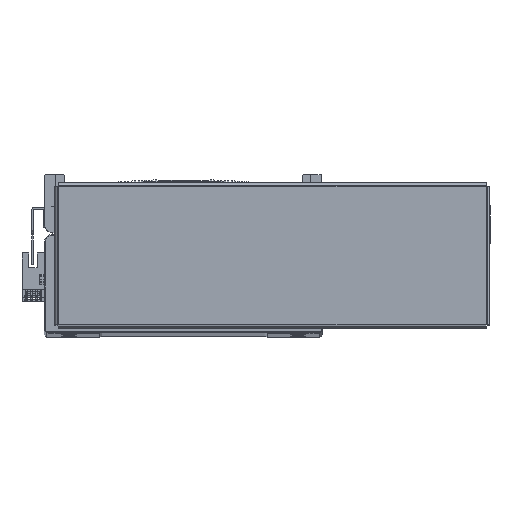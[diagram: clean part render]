
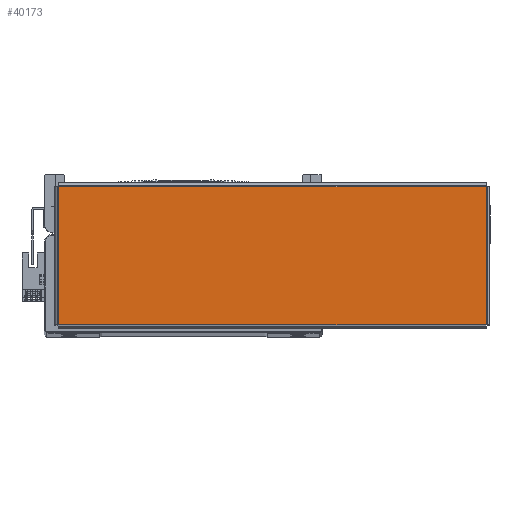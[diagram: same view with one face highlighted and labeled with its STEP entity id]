
A CAD part, top view. The second image highlights one B-rep face of the part: STEP entity #40173.
In plain terms, the highlighted planar face has unit normal (0, 0, 1) as drawn and (0, -1, 0) by its records, which use the part's own axes.
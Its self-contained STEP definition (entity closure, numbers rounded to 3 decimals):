
#6037 = ORIENTED_EDGE ( 'NONE', *, *, #69339, .T. ) ;
#6066 = ORIENTED_EDGE ( 'NONE', *, *, #69343, .T. ) ;
#6085 = ORIENTED_EDGE ( 'NONE', *, *, #69327, .T. ) ;
#6096 = ORIENTED_EDGE ( 'NONE', *, *, #69305, .T. ) ;
#26376 = CARTESIAN_POINT ( 'NONE',  ( 0., -1.5, 0. ) ) ;
#26387 = DIRECTION ( 'NONE',  ( 0., 1., 0. ) ) ;
#26390 = DIRECTION ( 'NONE',  ( 0., 0., 1. ) ) ;
#26394 = PLANE ( 'NONE',  #64000 ) ;
#27065 = CARTESIAN_POINT ( 'NONE',  ( -130.863, -1.5, -42.263 ) ) ;
#27087 = CARTESIAN_POINT ( 'NONE',  ( -130.863, -1.5, 42.263 ) ) ;
#27167 = CARTESIAN_POINT ( 'NONE',  ( 130.863, -1.5, -42.263 ) ) ;
#27168 = CARTESIAN_POINT ( 'NONE',  ( 130.863, -1.5, 42.263 ) ) ;
#38449 = DIRECTION ( 'NONE',  ( 1., 0., 0. ) ) ;
#38459 = CARTESIAN_POINT ( 'NONE',  ( -130.893, -1.5, -42.263 ) ) ;
#38479 = CARTESIAN_POINT ( 'NONE',  ( 130.893, -1.5, 42.263 ) ) ;
#38488 = CARTESIAN_POINT ( 'NONE',  ( 130.863, -1.5, -42.293 ) ) ;
#38505 = DIRECTION ( 'NONE',  ( 0., 0., 1. ) ) ;
#38521 = DIRECTION ( 'NONE',  ( 0., 0., -1. ) ) ;
#38528 = DIRECTION ( 'NONE',  ( -1., 0., 0. ) ) ;
#38550 = CARTESIAN_POINT ( 'NONE',  ( -130.863, -1.5, 42.293 ) ) ;
#40173 = ADVANCED_FACE ( 'NONE', ( #48474 ), #26394, .F. ) ;
#45609 = VERTEX_POINT ( 'NONE', #27065 ) ;
#45687 = VERTEX_POINT ( 'NONE', #27087 ) ;
#45791 = VERTEX_POINT ( 'NONE', #27167 ) ;
#45793 = VERTEX_POINT ( 'NONE', #27168 ) ;
#48474 = FACE_OUTER_BOUND ( 'NONE', #62926, .T. ) ;
#49000 = LINE ( 'NONE', #38488, #49016 ) ;
#49004 = VECTOR ( 'NONE', #38528, 1000. ) ;
#49016 = VECTOR ( 'NONE', #38505, 1000. ) ;
#49046 = VECTOR ( 'NONE', #38449, 1000. ) ;
#49062 = LINE ( 'NONE', #38479, #49004 ) ;
#49116 = LINE ( 'NONE', #38459, #49046 ) ;
#49138 = LINE ( 'NONE', #38550, #49142 ) ;
#49142 = VECTOR ( 'NONE', #38521, 1000. ) ;
#62926 = EDGE_LOOP ( 'NONE', ( #6085, #6037, #6066, #6096 ) ) ;
#64000 = AXIS2_PLACEMENT_3D ( 'NONE', #26376, #26387, #26390 ) ;
#69305 = EDGE_CURVE ( 'NONE', #45609, #45791, #49116, .T. ) ;
#69327 = EDGE_CURVE ( 'NONE', #45791, #45793, #49000, .T. ) ;
#69339 = EDGE_CURVE ( 'NONE', #45793, #45687, #49062, .T. ) ;
#69343 = EDGE_CURVE ( 'NONE', #45687, #45609, #49138, .T. ) ;
